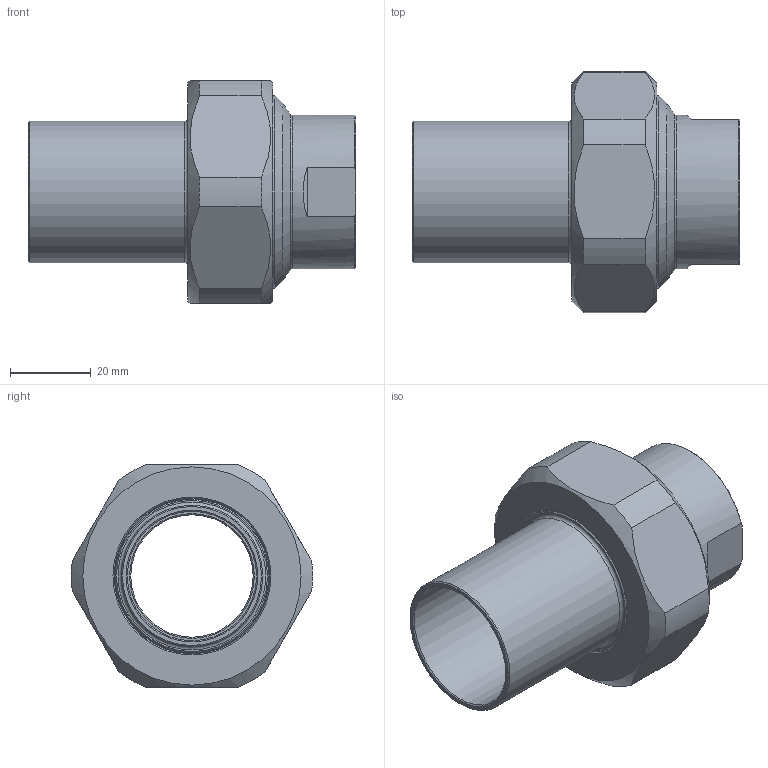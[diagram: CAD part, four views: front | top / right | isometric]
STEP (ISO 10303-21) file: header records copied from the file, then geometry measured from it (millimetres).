
FILE_DESCRIPTION(/* description */ (''),/* implementation_level */ '2;1');
FILE_NAME(/* name */ 'C:\Users\cad\Desktop\Zeichnungen neu von Ralph\Ganze Kupplungen\3D_Kupplung-R666-PE-G\3D_R666-PE-G-35-DN40-DN25_1711309435.stp',/* time_stamp */ '2021-07-16T08:54:53+02:00',/* author */ ('cad'),/* organization */ (''),/* preprocessor_version */ 'ST-DEVELOPER v18.1',/* originating_system */ 'Autodesk Inventor 2022',/* authorisation */ '');
FILE_SCHEMA (('AUTOMOTIVE_DESIGN { 1 0 10303 214 3 1 1 }'));
Length unit declared in the file: millimetre
Products named in the file (4): 3D_R666-PE-G-35-DN40-DN25_1711309435; 3D_R666-M-DN40_17113950; 3D_R666-G-DN25-DN40_17113540; 3D_R666-PE-35-DN40_17113480
Assembly tree (3 placements, depth 2):
  3D_R666-PE-G-35-DN40-DN25_1711309435
    3D_R666-M-DN40_17113950
    3D_R666-G-DN25-DN40_17113540
    3D_R666-PE-35-DN40_17113480
Bounding box: 81 x 59.67 x 55 mm (x, y, z)
Volume: 53940.8 mm3; surface area: 29000.5 mm2
Topology: 3 solids, 3 shells, 56 faces, 137 edges, 90 vertices
Faces by surface type: plane 19, cone 18, cylinder 15, torus 4
Full cylindrical faces by diameter (mm): 30.291 x1, 32 x1, 35 x1, 38 x2, 38.5 x1, 44 x1, 44.845 x1, 47.7 x1
Entity records: 1824 total; most frequent: DIRECTION 323, CARTESIAN_POINT 322, ORIENTED_EDGE 274, AXIS2_PLACEMENT_3D 139, EDGE_CURVE 137, VERTEX_POINT 90, CIRCLE 74, EDGE_LOOP 65
